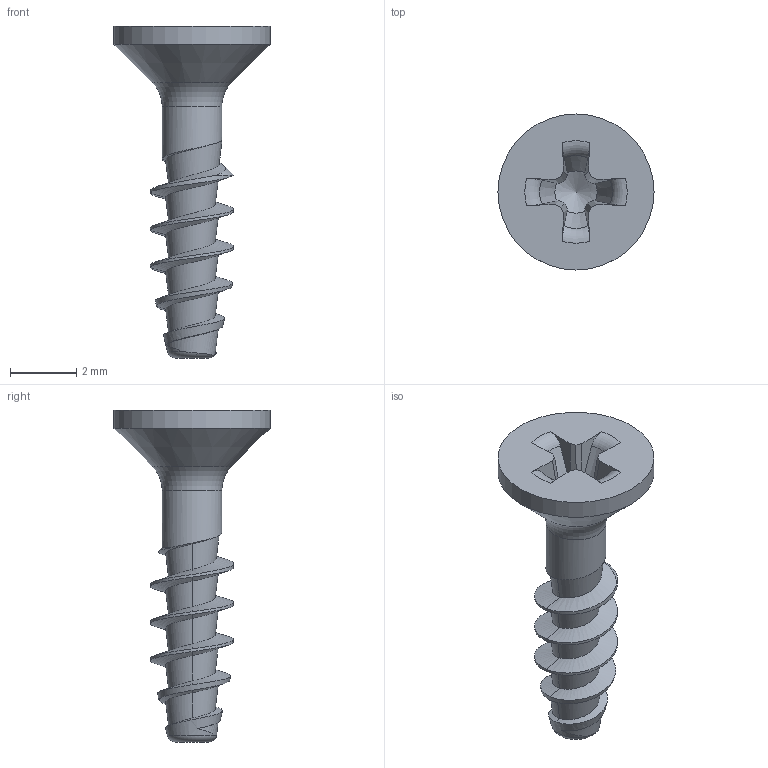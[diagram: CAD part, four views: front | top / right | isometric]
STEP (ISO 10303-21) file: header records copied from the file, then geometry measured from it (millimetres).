
FILE_DESCRIPTION(/* description */ (''),/* implementation_level */ '2;1');
FILE_NAME(/* name */ 'KN1033-STS-Neu-25x10-H1.step',/* time_stamp */ '2017-10-18T14:20:43+02:00',/* author */ (''),/* organization */ (''),/* preprocessor_version */ 'ST-DEVELOPER v16',/* originating_system */ 'SIEMENS PLM Software NX 10.0',/* authorisation */ '');
FILE_SCHEMA (('AUTOMOTIVE_DESIGN { 1 0 10303 214 3 1 1 1 }'));
Length unit declared in the file: millimetre
Products named in the file (1): KN1033-STS-Neu-25x10-H1
Bounding box: 4.7 x 4.7 x 10 mm (x, y, z)
Volume: 38.1 mm3; surface area: 115.9 mm2
Topology: 1 solids, 1 shells, 54 faces, 143 edges, 91 vertices
Faces by surface type: plane 18, bspline 18, cone 8, torus 6, cylinder 4
Full cylindrical faces by diameter (mm): 1.8 x1, 4.7 x1
Entity records: 2785 total; most frequent: CARTESIAN_POINT 1668, ORIENTED_EDGE 260, DIRECTION 157, EDGE_CURVE 130, VERTEX_POINT 86, B_SPLINE_CURVE_WITH_KNOTS 66, EDGE_LOOP 59, AXIS2_PLACEMENT_3D 57
